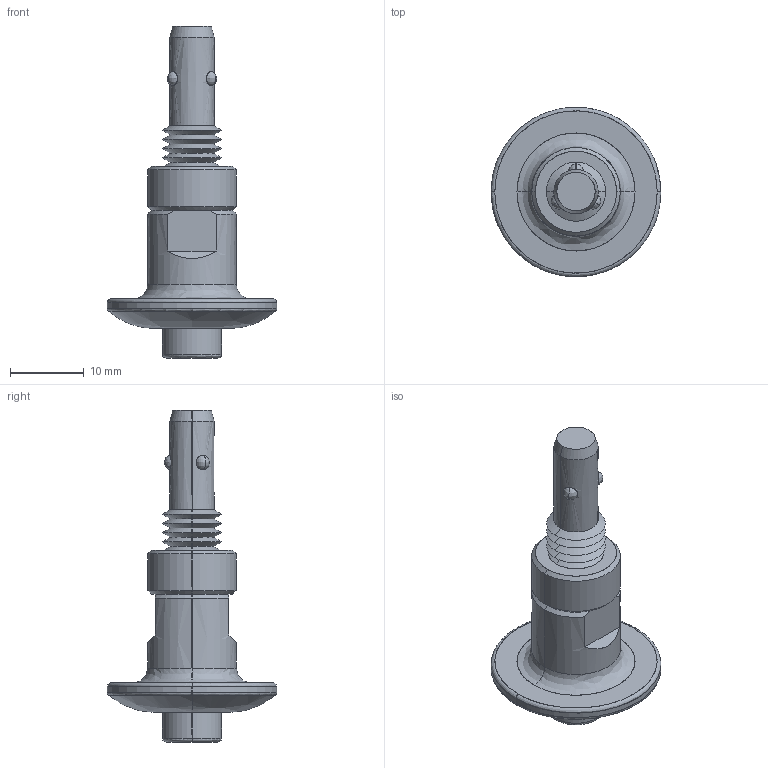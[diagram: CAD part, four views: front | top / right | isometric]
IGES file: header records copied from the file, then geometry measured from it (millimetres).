
Start section: SolidWorks IGES file using analytic representation for surfaces
Global section: file name: C:\Users\IanO\Documents\Temp File\GENERAL\33912_v2\33912_v2_20191028_IGES\33912.W1006.igs; native system: SolidWorks 2017; preprocessor: SolidWorks 2017; author: IanO; date: 191028.112301; units: millimetre
Bounding box: 23 x 23 x 45 mm (x, y, z)
Surface area: 2181.2 mm2 (no closed solid volume)
Topology: 0 solids, 0 shells, 66 faces, 704 edges, 704 vertices
Faces by surface type: revolution 45, bspline 21
